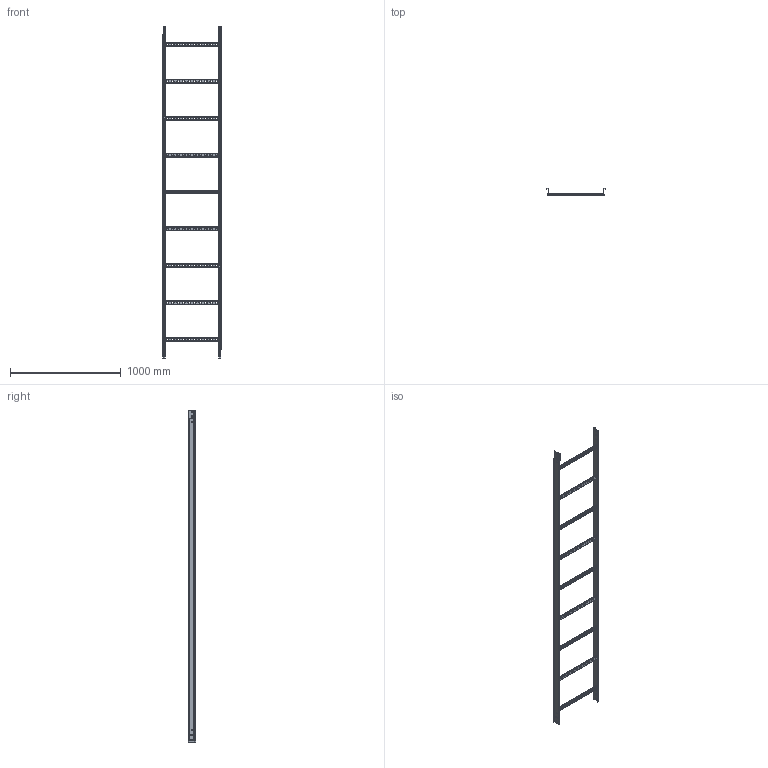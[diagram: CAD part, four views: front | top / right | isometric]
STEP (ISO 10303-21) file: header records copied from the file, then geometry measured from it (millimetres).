
FILE_DESCRIPTION (( 'STEP AP203' ), '1' );
FILE_NAME ('FE trav35 H60-75-100 p333 500x60.step', '2023-07-28T15:28:15', ( '' ), ( '' ), 'SwSTEP 2.0', 'SolidWorks 2022', '' );
FILE_SCHEMA (( 'CONFIG_CONTROL_DESIGN' ));
Length unit declared in the file: millimetre
Products named in the file (3): FE_MONTANTE_60x1,5; FE trav35 H60-75-100 p333 500x60; FE_RA35_500
Assembly tree (11 placements, depth 2):
  FE trav35 H60-75-100 p333 500x60
    FE_MONTANTE_60x1,5  x2
    FE_RA35_500  x9
Bounding box: 532 x 64.5 x 3000 mm (x, y, z)
Volume: 472875.8 mm3; surface area: 1832722.8 mm2
Topology: 9 solids, 13 shells, 972 faces, 2560 edges, 1612 vertices
Faces by surface type: plane 562, cylinder 406, bspline 4
Entity records: 6703 total; most frequent: CARTESIAN_POINT 1438, DIRECTION 1021, ORIENTED_EDGE 962, EDGE_CURVE 489, AXIS2_PLACEMENT_3D 359, VERTEX_POINT 316, LINE 303, VECTOR 303
